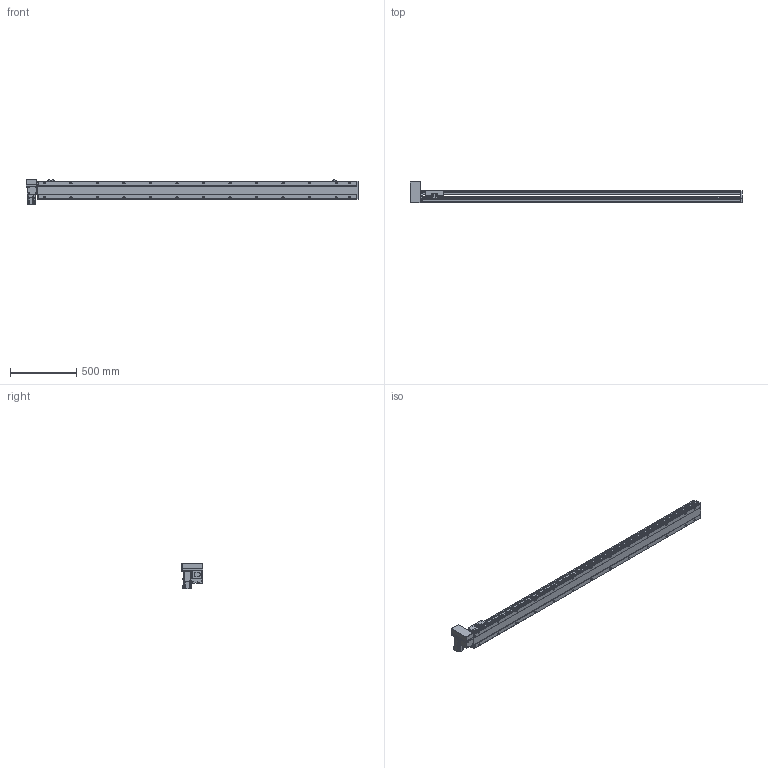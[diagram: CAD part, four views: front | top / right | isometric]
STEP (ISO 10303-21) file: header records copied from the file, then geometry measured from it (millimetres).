
FILE_DESCRIPTION(/* description */ ('STEP AP214'),/* implementation_level */ '2;1');
FILE_NAME(/* name */ 'PBS140S-P40-S2150-RU-T40-C1-N(0)',/* time_stamp */ '2022-06-09T02:56:25+02:00',/* author */ ('License CC BY-ND 4.0'),/* organization */ ('CADENAS'),/* preprocessor_version */ 'ST-DEVELOPER v18.102',/* originating_system */ 'PARTsolutions',/* authorisation */ ' ');
FILE_SCHEMA (('AUTOMOTIVE_DESIGN {1 0 10303 214 3 1 1}'));
Length unit declared in the file: millimetre
Products named in the file (7): PBS140S-P40-S2150-RU-T40-C1-N(0); PBS140S_sensor; PBS140S_plant; PBS140S_sliser; T40-p1; PBS140ST-RU_motors; PBS140S-S2150()_body
Assembly tree (8 placements, depth 2):
  PBS140S-P40-S2150-RU-T40-C1-N(0)
    PBS140S_sensor  x3
    PBS140S_plant
    PBS140S_sliser
    T40-p1
    PBS140ST-RU_motors
    PBS140S-S2150()_body
Bounding box: 2504 x 162.5 x 189.7 mm (x, y, z)
Volume: 12275606.2 mm3; surface area: 2076292.1 mm2
Topology: 8 solids, 8 shells, 1179 faces, 3111 edges, 2035 vertices
Faces by surface type: plane 732, cylinder 385, cone 52, sphere 8, torus 2
Full cylindrical faces by diameter (mm): 3.242 x4, 4 x2, 4.134 x4, 4.4 x8, 4.5 x2, 4.8 x4, 4.917 x34, 5.5 x7, 6 x2, 7 x28, 7.5 x8, 8 x12, 8.5 x4, 10.5 x26, 14 x1, 30 x2, 50 x2
Entity records: 33786 total; most frequent: CARTESIAN_POINT 6376, DIRECTION 5698, ORIENTED_EDGE 5362, EDGE_CURVE 2681, AXIS2_PLACEMENT_3D 2009, VERTEX_POINT 1873, LINE 1680, VECTOR 1680
